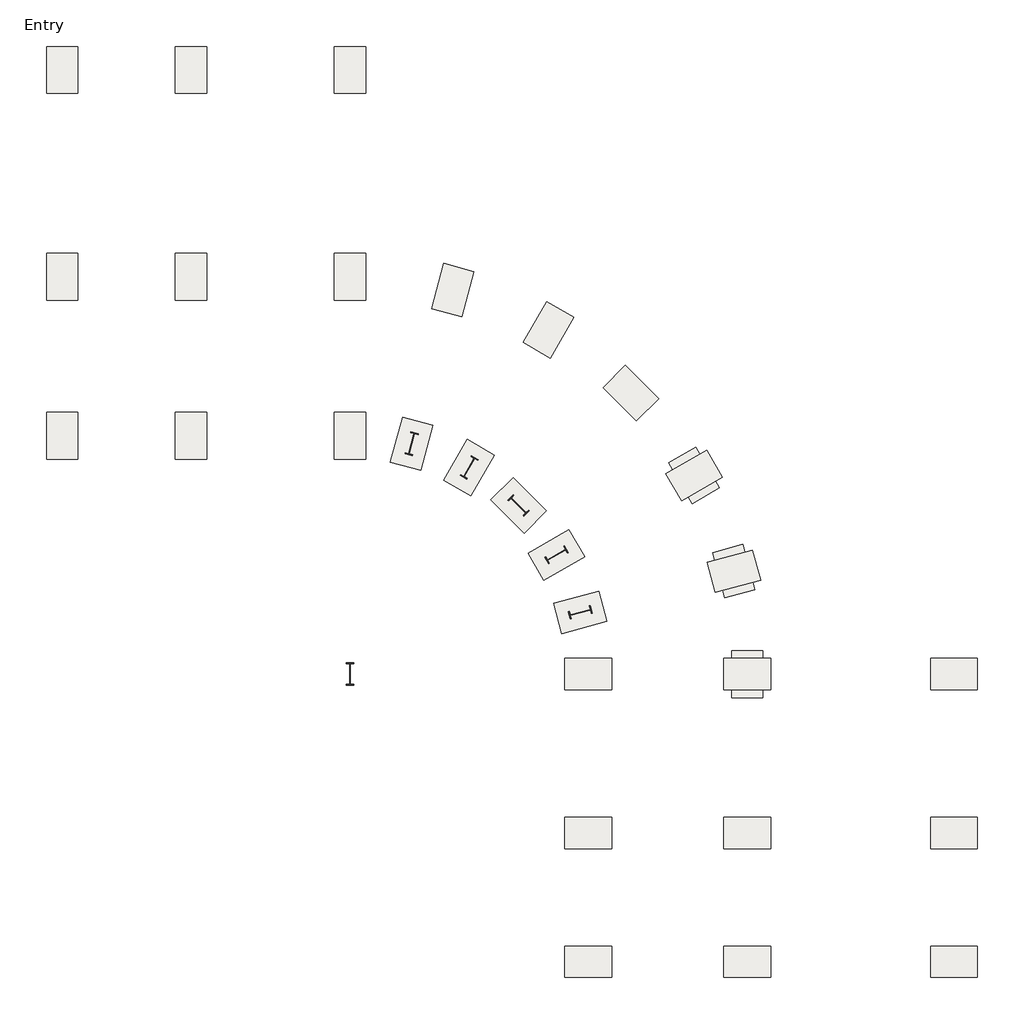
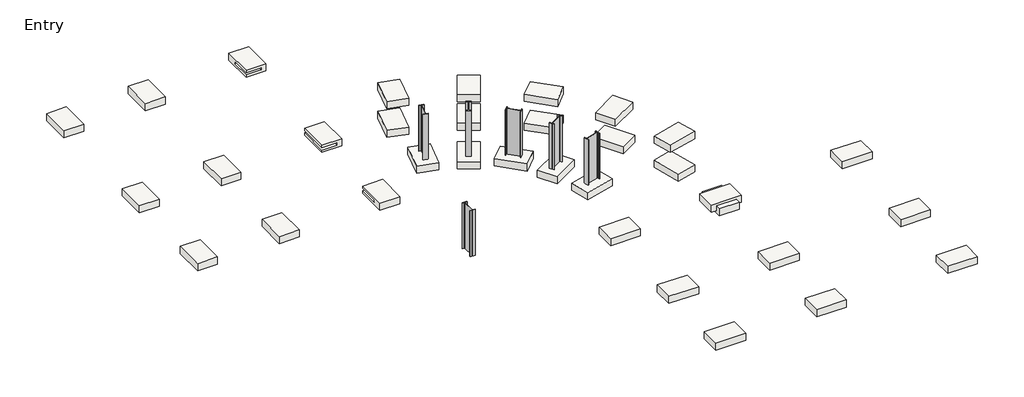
# One storey: 34 slabs, 6 columns.
"""IFC4 building model written with IfcOpenShell, lengths in millimetres."""

import ifcopenshell
import ifcopenshell.guid

model = None  # the IFC model being written
_history = None  # IfcOwnerHistory: only IFC2X3 demands one
_inside = {}  # id of a spatial element -> (the spatial element, [elements in it])
_under = {}  # id of a project, library or spatial element -> (it, [spatial elements below it])
_declared = {}  # id of a project -> (the project, [libraries it declares])
_typed = {}  # id of a type object -> (the type object, [elements of that type])
_made_of = {}  # id of a material, layer set ... -> (it, [elements and type objects made of it])


def new_model(schema):
    """Start an empty IFC model of exactly this schema.

    Asked for "IFC4X3", IfcOpenShell would pick the latest addendum, in which some entities
    have other attributes; the version numbers below select the first issue.
    IFC2X3 requires an IfcOwnerHistory on every rooted entity: one is made here for all.
    """
    global model, _history
    if schema == "IFC4X3":
        model = ifcopenshell.file(schema_version=(4, 3, 0, 0))
    else:
        model = ifcopenshell.file(schema=schema)
    _inside.clear()
    _under.clear()
    _declared.clear()
    _typed.clear()
    _made_of.clear()
    _history = None
    if model.schema == "IFC2X3":
        org = make("IfcOrganization", Name="unknown")
        user = make(
            "IfcPersonAndOrganization",
            ThePerson=make("IfcPerson", FamilyName="unknown"),
            TheOrganization=org,
        )
        app = make(
            "IfcApplication",
            ApplicationDeveloper=org,
            Version="unknown",
            ApplicationFullName="unknown",
            ApplicationIdentifier="unknown",
        )
        _history = make(
            "IfcOwnerHistory",
            OwningUser=user,
            OwningApplication=app,
            ChangeAction="ADDED",
            CreationDate=0,
        )
    return model


def make(cls, **values):
    """One entity of the class cls with the attributes given. An attribute that is None is left unset."""
    return model.create_entity(
        cls, **{name: value for name, value in values.items() if value is not None}
    )


def rooted(cls, **values):
    """An entity with a GlobalId (a new one), such as an element, a storey or a relation."""
    return make(cls, GlobalId=ifcopenshell.guid.new(), OwnerHistory=_history, **values)


def si_unit(unit_type, name, prefix=None):
    """IfcSIUnit, for example si_unit("LENGTHUNIT", "METRE", prefix="MILLI")."""
    return make("IfcSIUnit", UnitType=unit_type, Prefix=prefix, Name=name)


def assignment(units):
    """IfcUnitAssignment: the units of a project."""
    return None if units is None else make("IfcUnitAssignment", Units=units)


def point(xyz):
    """IfcCartesianPoint."""
    return None if xyz is None else make("IfcCartesianPoint", Coordinates=xyz)


def direction(xyz):
    """IfcDirection."""
    return None if xyz is None else make("IfcDirection", DirectionRatios=xyz)


def frame(location, z_axis=None, x_axis=None):
    """IfcAxis2Placement3D, a coordinate frame: its origin and axes. An axis left out is left unset."""
    return make(
        "IfcAxis2Placement3D",
        Location=point(location),
        Axis=direction(z_axis),
        RefDirection=direction(x_axis),
    )


def frame_2d(location, x_axis=None):
    """IfcAxis2Placement2D, a coordinate frame in the plane: its origin and x axis."""
    return make(
        "IfcAxis2Placement2D", Location=point(location), RefDirection=direction(x_axis)
    )


def origin():
    """The frame at (0, 0, 0) with its axes left unset."""
    return frame((0.0, 0.0, 0.0))


def origin_with_axes():
    """The frame at (0, 0, 0) with the z axis (0, 0, 1) and the x axis (1, 0, 0) written out."""
    return frame((0.0, 0.0, 0.0), z_axis=(0.0, 0.0, 1.0), x_axis=(1.0, 0.0, 0.0))


def place(relative_to, where):
    """IfcLocalPlacement: puts the frame where relative to a parent placement (None: the world)."""
    return make(
        "IfcLocalPlacement", PlacementRelTo=relative_to, RelativePlacement=where
    )


def context(
    kind, dimensions, precision=None, world=None, true_north=None, identifier=None
):
    """IfcGeometricRepresentationContext, for example the 3D "Model" context."""
    return make(
        "IfcGeometricRepresentationContext",
        ContextIdentifier=identifier,
        ContextType=kind,
        CoordinateSpaceDimension=dimensions,
        Precision=precision,
        WorldCoordinateSystem=world,
        TrueNorth=true_north,
    )


def project(units=None, contexts=None):
    """IfcProject with its units and contexts."""
    return rooted(
        "IfcProject",
        Name="project",
        RepresentationContexts=contexts,
        UnitsInContext=assignment(units),
    )


def spatial(cls, under=None, at=None, **own):
    """A site, building, storey or space (cls), placed at a placement, below another one or the project."""
    s = rooted(cls, ObjectPlacement=at, **own)
    if under is not None:
        _under.setdefault(under.id(), (under, []))[1].append(s)
    return s


def polyline(points):
    """IfcPolyline through the points."""
    return make("IfcPolyline", Points=[point(p) for p in points])


def circle_curve(where, radius):
    """IfcCircle in the frame where."""
    return make("IfcCircle", Position=where, Radius=radius)


def trimmed(basis, trim1, trim2, sense, master):
    """IfcTrimmedCurve: the piece of a basis curve between two trims."""
    return make(
        "IfcTrimmedCurve",
        BasisCurve=basis,
        Trim1=trim1,
        Trim2=trim2,
        SenseAgreement=sense,
        MasterRepresentation=master,
    )


def segment(curve, same_sense, transition):
    """IfcCompositeCurveSegment."""
    return make(
        "IfcCompositeCurveSegment",
        Transition=transition,
        SameSense=same_sense,
        ParentCurve=curve,
    )


def composite_curve(segments, self_intersect=None):
    """IfcCompositeCurve: segments joined end to end."""
    return make("IfcCompositeCurve", Segments=segments, SelfIntersect=self_intersect)


def outline(outer, holes=None, kind="AREA"):
    """IfcArbitraryClosedProfileDef: a profile drawn as a closed curve; with holes, ...WithVoids."""
    if holes is None:
        return make("IfcArbitraryClosedProfileDef", ProfileType=kind, OuterCurve=outer)
    return make(
        "IfcArbitraryProfileDefWithVoids",
        ProfileType=kind,
        OuterCurve=outer,
        InnerCurves=holes,
    )


def extrude(swept, where, along, depth):
    """IfcExtrudedAreaSolid: the profile swept, set in the frame where, extruded along a direction by depth."""
    return make(
        "IfcExtrudedAreaSolid",
        SweptArea=swept,
        Position=where,
        ExtrudedDirection=direction(along),
        Depth=depth,
    )


def faces_of(points, faces, orient=None, outer=None):
    """IfcFace entities. A face is a list of loops; a loop is a list of indices into points, from 0.

    orient and outer hold one flag for each loop. By default every Orientation is true, the
    first loop of a face is its IfcFaceOuterBound and the others are IfcFaceBound.
    """
    made = []
    for i, loops in enumerate(faces):
        bounds = []
        for j, loop in enumerate(loops):
            is_outer = j == 0 if outer is None else outer[i][j]
            bounds.append(
                make(
                    "IfcFaceOuterBound" if is_outer else "IfcFaceBound",
                    Bound=make("IfcPolyLoop", Polygon=[points[k] for k in loop]),
                    Orientation=True if orient is None else orient[i][j],
                )
            )
        made.append(make("IfcFace", Bounds=bounds))
    return made


def faceted_brep(points, faces, orient=None, outer=None, voids=None):
    """IfcFacetedBrep: a solid bounded by flat faces; with voids (closed shells), ...WithVoids."""
    shared = [point(p) for p in points]
    hull = make("IfcClosedShell", CfsFaces=faces_of(shared, faces, orient, outer))
    if voids is None:
        return make("IfcFacetedBrep", Outer=hull)
    return make(
        "IfcFacetedBrepWithVoids",
        Outer=hull,
        Voids=[
            make(cls, CfsFaces=faces_of(shared, fs, o, b)) for cls, fs, o, b in voids
        ],
    )


def shape(context_of_items, identifier, shape_type, items):
    """IfcShapeRepresentation: the items that make up one representation, for example the "Body"."""
    return make(
        "IfcShapeRepresentation",
        ContextOfItems=context_of_items,
        RepresentationIdentifier=identifier,
        RepresentationType=shape_type,
        Items=items,
    )


def source(mapping_origin, context_of_items, identifier, shape_type, items):
    """IfcRepresentationMap: a shape defined once, which mapped items show again and again."""
    return make(
        "IfcRepresentationMap",
        MappingOrigin=mapping_origin,
        MappedRepresentation=shape(context_of_items, identifier, shape_type, items),
    )


def transform(
    local_origin,
    x_axis=None,
    y_axis=None,
    z_axis=None,
    scale=None,
    scale2=None,
    scale3=None,
    uniform=True,
):
    """IfcCartesianTransformationOperator3D, or its non-uniform kind. x_axis, y_axis, z_axis: its Axis1, 2, 3."""
    if uniform:
        return make(
            "IfcCartesianTransformationOperator3D",
            Axis1=direction(x_axis),
            Axis2=direction(y_axis),
            LocalOrigin=point(local_origin),
            Scale=scale,
            Axis3=direction(z_axis),
        )
    return make(
        "IfcCartesianTransformationOperator3DnonUniform",
        Axis1=direction(x_axis),
        Axis2=direction(y_axis),
        LocalOrigin=point(local_origin),
        Scale=scale,
        Axis3=direction(z_axis),
        Scale2=scale2,
        Scale3=scale3,
    )


def mapped(mapping_source, mapping_target):
    """IfcMappedItem: shows the shape of a source again, moved by a transform."""
    return make(
        "IfcMappedItem", MappingSource=mapping_source, MappingTarget=mapping_target
    )


def made_of(thing, what):
    """Note that an element or type object is made of a material, layer set ...; save() writes the relation."""
    if what is not None:
        _made_of.setdefault(what.id(), (what, []))[1].append(thing)
    return thing


def element(
    cls,
    number,
    at=None,
    inside=None,
    cuts=None,
    type_object=None,
    material=None,
    context=None,
    identifier="Body",
    shape_type=None,
    held_by="IfcProductDefinitionShape",
    body=None,
    shapes=None,
    **own,
):
    """One element of the class cls, such as IfcWall. Its Tag is "e" and its number.

    at: its placement. inside: the storey or other place that contains it. cuts: it is an
    opening in that element (IfcRelVoidsElement). A single representation is given by context,
    identifier, shape_type and body (its items); several are given by shapes. held_by: the class
    of the entity that holds the representations. save() writes the other relations.
    """
    e = rooted(cls, Tag="e%d" % number, ObjectPlacement=at, **own)
    if body is not None:
        shapes = [shape(context, identifier, shape_type, body)]
    if shapes is not None:
        e.Representation = make(held_by, Representations=shapes)
    if inside is not None:
        _inside.setdefault(inside.id(), (inside, []))[1].append(e)
    if cuts is not None:
        rooted(
            "IfcRelVoidsElement", RelatingBuildingElement=cuts, RelatedOpeningElement=e
        )
    if type_object is not None:
        _typed.setdefault(type_object.id(), (type_object, []))[1].append(e)
    return made_of(e, material)


def aggregate(whole, parts):
    """IfcRelAggregates: a whole, such as a stair, and the parts it consists of."""
    return rooted("IfcRelAggregates", RelatingObject=whole, RelatedObjects=parts)


def save(model, path):
    """Write the relations noted so far, then the file.

    IfcRelAggregates (storeys below a building ...), IfcRelContainedInSpatialStructure (elements
    in a storey), IfcRelDefinesByType, IfcRelAssociatesMaterial and IfcRelDeclares: one each for
    every whole, place, type object, material and project.
    """
    for whole, parts in _under.values():
        aggregate(whole, parts)
    for where, things in _inside.values():
        rooted(
            "IfcRelContainedInSpatialStructure",
            RelatedElements=things,
            RelatingStructure=where,
        )
    for kind, things in _typed.values():
        rooted("IfcRelDefinesByType", RelatedObjects=things, RelatingType=kind)
    for what, things in _made_of.values():
        rooted("IfcRelAssociatesMaterial", RelatedObjects=things, RelatingMaterial=what)
    for by, libraries in _declared.values():
        rooted("IfcRelDeclares", RelatingContext=by, RelatedDefinitions=libraries)
    model.write(path)


def w840x251_ab389207(model_context):
    return source(origin(), model_context, "Body", "SweptSolid", [
        extrude(outline(composite_curve([segment(polyline([(146.0, 429.5), (146.0, 398.5), (31.5, 398.5)]), True, "CONTINUOUS"), segment(trimmed(circle_curve(frame_2d((31.5, 375.5)), 23.0), [point((31.5, 398.5))], [point((8.5, 375.5))], True, "CARTESIAN"), True, "CONTINUOUS"), segment(polyline([(8.5, 375.5), (8.5, -375.5)]), True, "CONTINUOUS"), segment(trimmed(circle_curve(frame_2d((31.5, -375.5)), 23.0), [point((8.5, -375.5))], [point((31.5, -398.5))], True, "CARTESIAN"), True, "CONTINUOUS"), segment(polyline([(31.5, -398.5), (146.0, -398.5), (146.0, -429.5), (-146.0, -429.5), (-146.0, -398.5), (-31.5, -398.5)]), True, "CONTINUOUS"), segment(trimmed(circle_curve(frame_2d((-31.5, -375.5)), 23.0), [point((-31.5, -398.5))], [point((-8.5, -375.5))], True, "CARTESIAN"), True, "CONTINUOUS"), segment(polyline([(-8.5, -375.5), (-8.5, 375.5)]), True, "CONTINUOUS"), segment(trimmed(circle_curve(frame_2d((-31.5, 375.5)), 23.0), [point((-8.5, 375.5))], [point((-31.5, 398.5))], True, "CARTESIAN"), True, "CONTINUOUS"), segment(polyline([(-31.5, 398.5), (-146.0, 398.5), (-146.0, 429.5), (146.0, 429.5)]), True, "CONTINUOUS")], self_intersect=False)), origin_with_axes(), (0.0, 0.0, 1.0), 2921.0),
    ])


def m_footing_rectangular_1800_x_1200_x_450mm_16ba7ea5(model_context):
    return source(origin(), model_context, "Body", "SweptSolid", [
        extrude(outline(polyline([(600.0, 900.0), (600.0, -900.0), (-600.0, -900.0), (-600.0, 900.0), (600.0, 900.0)])), frame((0.0, 0.0, -450.0), z_axis=(0.0, 0.0, 1.0), x_axis=(1.0, 0.0, 0.0)), (0.0, 0.0, 1.0), 450.0),
    ])


def m_footing_rectangular_1800_x_1200_x_450mm_a17f5610(model_context):
    return source(origin(), model_context, "Body", "SweptSolid", [
        extrude(outline(polyline([(600.0, -900.0), (-600.0, -900.0), (-600.0, 900.0), (600.0, 900.0), (600.0, -900.0)])), frame((0.0, 0.0, -450.0), z_axis=(0.0, 0.0, 1.0), x_axis=(1.0, 0.0, 0.0)), (0.0, 0.0, 1.0), 450.0),
    ])


model = new_model("IFC4")

# Units and contexts
model_context = context("Model", 3, world=origin())
ifc_project = project(units=[si_unit("LENGTHUNIT", "METRE", prefix="MILLI")], contexts=[model_context])

# Site, building, storey
site = spatial("IfcSite", under=ifc_project)
building = spatial("IfcBuilding", under=site)
storey = spatial("IfcBuildingStorey", under=building, Name="Entry", Elevation=0.0)

# Columns
placement = place(None, origin())
w840x251_shape = w840x251_ab389207(model_context)
element("IfcColumn", 1, ObjectType="M_W-Wide Flange-Column : W840X251", at=placement, inside=storey, context=model_context, shape_type="MappedRepresentation", body=[
    mapped(w840x251_shape, transform((-10508.9035319, -18902.8363965, 0.0), x_axis=(1.0, 0.0, 0.0), y_axis=(0.0, 1.0, 0.0), z_axis=(0.0, 0.0, 1.0))),
])
element("IfcColumn", 2, ObjectType="M_W-Wide Flange-Column : W840X251", at=placement, inside=storey, context=model_context, shape_type="MappedRepresentation", body=[
    mapped(w840x251_shape, transform((-1676.4777763, -16536.1950481, 0.0), x_axis=(-0.25881904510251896, 0.9659258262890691, 0.0), y_axis=(-0.9659258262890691, -0.25881904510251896, 0.0), z_axis=(0.0, 0.0, 1.0))),
])
element("IfcColumn", 3, ObjectType="M_W-Wide Flange-Column : W840X251", at=placement, inside=storey, context=model_context, shape_type="MappedRepresentation", body=[
    mapped(w840x251_shape, transform((-2589.9672396, -14330.8363965, 0.0), x_axis=(-0.4999999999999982, 0.8660254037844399, 0.0), y_axis=(-0.8660254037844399, -0.4999999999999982, 0.0), z_axis=(0.0, 0.0, 1.0))),
])
element("IfcColumn", 4, ObjectType="M_W-Wide Flange-Column : W840X251", at=placement, inside=storey, context=model_context, shape_type="MappedRepresentation", body=[
    mapped(w840x251_shape, transform((-4043.1191247, -12437.0519893, 0.0), x_axis=(0.7071067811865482, 0.7071067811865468, 0.0), y_axis=(-0.7071067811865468, 0.7071067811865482, 0.0), z_axis=(0.0, 0.0, 1.0))),
])
element("IfcColumn", 5, ObjectType="M_W-Wide Flange-Column : W840X251", at=placement, inside=storey, context=model_context, shape_type="MappedRepresentation", body=[
    mapped(w840x251_shape, transform((-5936.9035319, -10983.9001043, 0.0), x_axis=(0.8660254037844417, -0.49999999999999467, 0.0), y_axis=(0.49999999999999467, 0.8660254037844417, 0.0), z_axis=(0.0, 0.0, 1.0))),
])
element("IfcColumn", 6, ObjectType="M_W-Wide Flange-Column : W840X251", at=placement, inside=storey, context=model_context, shape_type="MappedRepresentation", body=[
    mapped(w840x251_shape, transform((-8142.2621834, -10070.4106409, 0.0), x_axis=(0.9659258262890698, -0.25881904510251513, 0.0), y_axis=(0.25881904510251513, 0.9659258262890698, 0.0), z_axis=(0.0, 0.0, 1.0))),
])

# Slabs
element("IfcSlab", 7, ObjectType="M_Footing-Rectangular : 1800 x 1200 x 450mm", at=placement, inside=storey, context=model_context, shape_type="Brep", body=[
    faceted_brep([(-11108.9035319, 3362.1636035, -1677.0), (-9908.9035319, 3362.1636035, -1677.0), (-9908.9035319, 5162.1636035, -1677.0), (-11108.9035319, 5162.1636035, -1677.0), (-11108.9035319, 3362.1636035, -2127.0), (-11108.9035319, 5162.1636035, -2127.0), (-9908.9035319, 5162.1636035, -2127.0), (-9908.9035319, 3362.1636035, -2127.0), (-11108.9035319, 3362.1636035, -1829.0), (-10208.9035319, 3362.1636035, -1829.0), (-10208.9035319, 3362.1636035, -1979.0), (-11108.9035319, 3362.1636035, -1979.0), (-11108.9035319, 4562.1636035, -1979.0), (-11108.9035319, 4562.1636035, -1829.0), (-10208.9035319, 4562.1636035, -1979.0), (-10208.9035319, 4562.1636035, -1829.0)], [[[0, 1, 2, 3]], [[4, 5, 6, 7]], [[1, 0, 8, 9, 10, 11, 4, 7]], [[2, 1, 7, 6]], [[3, 2, 6, 5]], [[0, 3, 5, 4, 11, 12, 13, 8]], [[14, 12, 11, 10]], [[15, 9, 8, 13]], [[15, 14, 10, 9]], [[14, 15, 13, 12]]]),
])
element("IfcSlab", 8, ObjectType="M_Footing-Rectangular : 1800 x 1200 x 450mm", at=placement, inside=storey, context=model_context, shape_type="Brep", body=[
    faceted_brep([(5331.0964681, -18002.8363965, -1829.0), (4131.0964681, -18002.8363965, -1829.0), (4131.0964681, -18302.8363965, -1829.0), (4131.0964681, -19502.8363965, -1829.0), (4131.0964681, -19802.8363965, -1829.0), (5331.0964681, -19802.8363965, -1829.0), (5331.0964681, -19502.8363965, -1829.0), (5331.0964681, -18302.8363965, -1829.0), (5331.0964681, -18002.8363965, -2279.0), (5331.0964681, -19802.8363965, -2279.0), (4131.0964681, -19802.8363965, -2279.0), (4131.0964681, -18002.8363965, -2279.0)], [[[0, 1, 2, 3, 4, 5, 6, 7]], [[8, 9, 10, 11]], [[1, 0, 8, 11]], [[4, 3, 2, 1, 11, 10]], [[5, 4, 10, 9]], [[0, 7, 6, 5, 9, 8]]]),
])
element("IfcSlab", 9, ObjectType="M_Footing-Rectangular : 1800 x 1200 x 450mm", at=placement, inside=storey, context=model_context, shape_type="SweptSolid", body=[
    extrude(outline(polyline([(-1677.0, -9908.9035319), (-1677.0, -11108.9035319), (-1829.0, -11108.9035319), (-1829.0, -10208.9035319), (-1979.0, -10208.9035319), (-1979.0, -11108.9035319), (-2127.0, -11108.9035319), (-2127.0, -9908.9035319), (-1677.0, -9908.9035319)])), frame((0.0, -4562.8363965, 0.0), z_axis=(0.0, 1.0, 0.0), x_axis=(0.0, 0.0, 1.0)), (0.0, 0.0, 1.0), 1800.0),
])
element("IfcSlab", 10, ObjectType="M_Footing-Rectangular : 1800 x 1200 x 450mm", at=placement, inside=storey, context=model_context, shape_type="Brep", body=[
    faceted_brep([(-9908.9035319, -8858.8363965, -1677.0), (-11108.9035319, -8858.8363965, -1677.0), (-11108.9035319, -10658.8363965, -1677.0), (-9908.9035319, -10658.8363965, -1677.0), (-9908.9035319, -8858.8363965, -2127.0), (-9908.9035319, -10658.8363965, -2127.0), (-11108.9035319, -10658.8363965, -2127.0), (-11108.9035319, -8858.8363965, -2127.0), (-11108.9035319, -8858.8363965, -1979.0), (-10208.9035319, -8858.8363965, -1979.0), (-10208.9035319, -8858.8363965, -1829.0), (-11108.9035319, -8858.8363965, -1829.0), (-11108.9035319, -10058.8363965, -1829.0), (-11108.9035319, -10058.8363965, -1979.0), (-10208.9035319, -10058.8363965, -1979.0), (-10208.9035319, -10058.8363965, -1829.0)], [[[0, 1, 2, 3]], [[4, 5, 6, 7]], [[1, 0, 4, 7, 8, 9, 10, 11]], [[2, 1, 11, 12, 13, 8, 7, 6]], [[3, 2, 6, 5]], [[0, 3, 5, 4]], [[13, 14, 9, 8]], [[10, 15, 12, 11]], [[14, 15, 10, 9]], [[15, 14, 13, 12]]]),
])
element("IfcSlab", 11, ObjectType="M_Footing-Rectangular : 1800 x 1200 x 450mm", at=placement, inside=storey, context=model_context, shape_type="SweptSolid", body=[
    extrude(outline(polyline([(11756.0964681, -19502.8363965), (11756.0964681, -18302.8363965), (13556.0964681, -18302.8363965), (13556.0964681, -19502.8363965), (11756.0964681, -19502.8363965)])), frame((0.0, 0.0, -2127.0), z_axis=(0.0, 0.0, 1.0), x_axis=(1.0, 0.0, 0.0)), (0.0, 0.0, 1.0), 450.0),
])
element("IfcSlab", 12, ObjectType="M_Footing-Rectangular : 1800 x 1200 x 450mm", at=placement, inside=storey, context=model_context, shape_type="SweptSolid", body=[
    extrude(outline(polyline([(-1677.0, 5631.0964681), (-1677.0, 3831.0964681), (-2127.0, 3831.0964681), (-2127.0, 4131.0964681), (-1829.0, 4131.0964681), (-1829.0, 5331.0964681), (-2127.0, 5331.0964681), (-2127.0, 5631.0964681), (-1677.0, 5631.0964681)])), frame((0.0, -19502.8363965, 0.0), z_axis=(0.0, 1.0, 0.0), x_axis=(0.0, 0.0, 1.0)), (0.0, 0.0, 1.0), 1200.0),
])
element("IfcSlab", 13, ObjectType="M_Footing-Rectangular : 1800 x 1200 x 450mm", at=placement, inside=storey, context=model_context, shape_type="SweptSolid", body=[
    extrude(outline(polyline([(-464.9035319, -18302.8363965), (-464.9035319, -19502.8363965), (-2264.9035319, -19502.8363965), (-2264.9035319, -18302.8363965), (-464.9035319, -18302.8363965)])), frame((0.0, 0.0, -2127.0), z_axis=(0.0, 0.0, 1.0), x_axis=(1.0, 0.0, 0.0)), (0.0, 0.0, 1.0), 450.0),
])
m_footing_rectangular_1800_x_1200_x_450mm_shape = m_footing_rectangular_1800_x_1200_x_450mm_16ba7ea5(model_context)
element("IfcSlab", 14, ObjectType="M_Footing-Rectangular : 1800 x 1200 x 450mm", at=placement, inside=storey, context=model_context, shape_type="MappedRepresentation", body=[
    mapped(m_footing_rectangular_1800_x_1200_x_450mm_shape, transform((4211.8060608, -14958.4341491, -1829.0), x_axis=(0.9659258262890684, 0.25881904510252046, 0.0), y_axis=(-0.25881904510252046, 0.9659258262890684, 0.0), z_axis=(0.0, 0.0, 1.0))),
])
element("IfcSlab", 15, ObjectType="M_Footing-Rectangular : 1800 x 1200 x 450mm", at=placement, inside=storey, context=model_context, shape_type="MappedRepresentation", body=[
    mapped(m_footing_rectangular_1800_x_1200_x_450mm_shape, transform((2689.3236218, -11282.8363965, -1829.0), x_axis=(0.8660254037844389, 0.4999999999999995, 0.0), y_axis=(-0.4999999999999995, 0.8660254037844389, 0.0), z_axis=(0.0, 0.0, 1.0))),
])
element("IfcSlab", 16, ObjectType="M_Footing-Rectangular : 1800 x 1200 x 450mm", at=placement, inside=storey, context=model_context, shape_type="MappedRepresentation", body=[
    mapped(m_footing_rectangular_1800_x_1200_x_450mm_shape, transform((267.4038134, -8126.5290512, -1829.0), x_axis=(0.7071067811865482, 0.7071067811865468, 0.0), y_axis=(-0.7071067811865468, 0.7071067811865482, 0.0), z_axis=(0.0, 0.0, 1.0))),
])
element("IfcSlab", 17, ObjectType="M_Footing-Rectangular : 1800 x 1200 x 450mm", at=placement, inside=storey, context=model_context, shape_type="MappedRepresentation", body=[
    mapped(m_footing_rectangular_1800_x_1200_x_450mm_shape, transform((-2888.9035319, -5704.6092428, -1829.0), x_axis=(0.8660254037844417, -0.49999999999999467, 0.0), y_axis=(0.49999999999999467, 0.8660254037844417, 0.0), z_axis=(0.0, 0.0, 1.0))),
])
element("IfcSlab", 18, ObjectType="M_Footing-Rectangular : 1800 x 1200 x 450mm", at=placement, inside=storey, context=model_context, shape_type="MappedRepresentation", body=[
    mapped(m_footing_rectangular_1800_x_1200_x_450mm_shape, transform((-6564.5012845, -4182.1268039, -1829.0), x_axis=(0.9659258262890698, -0.25881904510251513, 0.0), y_axis=(0.25881904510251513, 0.9659258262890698, 0.0), z_axis=(0.0, 0.0, 1.0))),
])
element("IfcSlab", 19, ObjectType="M_Footing-Rectangular : 1800 x 1200 x 450mm", at=placement, inside=storey, context=model_context, shape_type="MappedRepresentation", body=[
    mapped(m_footing_rectangular_1800_x_1200_x_450mm_shape, transform((-1676.4777763, -16536.1950481, 0.0), x_axis=(-0.25881904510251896, 0.9659258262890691, 0.0), y_axis=(-0.9659258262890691, -0.25881904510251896, 0.0), z_axis=(0.0, 0.0, 1.0))),
])
element("IfcSlab", 20, ObjectType="M_Footing-Rectangular : 1800 x 1200 x 450mm", at=placement, inside=storey, context=model_context, shape_type="MappedRepresentation", body=[
    mapped(m_footing_rectangular_1800_x_1200_x_450mm_shape, transform((-2589.9672396, -14330.8363965, 0.0), x_axis=(-0.4999999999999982, 0.8660254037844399, 0.0), y_axis=(-0.8660254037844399, -0.4999999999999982, 0.0), z_axis=(0.0, 0.0, 1.0))),
])
element("IfcSlab", 21, ObjectType="M_Footing-Rectangular : 1800 x 1200 x 450mm", at=placement, inside=storey, context=model_context, shape_type="MappedRepresentation", body=[
    mapped(m_footing_rectangular_1800_x_1200_x_450mm_shape, transform((-4043.1191247, -12437.0519893, 0.0), x_axis=(0.7071067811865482, 0.7071067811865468, 0.0), y_axis=(-0.7071067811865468, 0.7071067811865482, 0.0), z_axis=(0.0, 0.0, 1.0))),
])
element("IfcSlab", 22, ObjectType="M_Footing-Rectangular : 1800 x 1200 x 450mm", at=placement, inside=storey, context=model_context, shape_type="MappedRepresentation", body=[
    mapped(m_footing_rectangular_1800_x_1200_x_450mm_shape, transform((-5936.9035319, -10983.9001043, 0.0), x_axis=(0.8660254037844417, -0.49999999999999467, 0.0), y_axis=(0.49999999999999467, 0.8660254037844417, 0.0), z_axis=(0.0, 0.0, 1.0))),
])
element("IfcSlab", 23, ObjectType="M_Footing-Rectangular : 1800 x 1200 x 450mm", at=placement, inside=storey, context=model_context, shape_type="MappedRepresentation", body=[
    mapped(m_footing_rectangular_1800_x_1200_x_450mm_shape, transform((-8142.2621834, -10070.4106409, 0.0), x_axis=(0.9659258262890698, -0.25881904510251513, 0.0), y_axis=(0.25881904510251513, 0.9659258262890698, 0.0), z_axis=(0.0, 0.0, 1.0))),
])
element("IfcSlab", 24, ObjectType="M_Footing-Rectangular : 1800 x 1200 x 450mm", at=placement, inside=storey, context=model_context, shape_type="MappedRepresentation", body=[
    mapped(m_footing_rectangular_1800_x_1200_x_450mm_shape, transform((4211.8060608, -14958.4341491, 0.0), x_axis=(-0.25881904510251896, 0.9659258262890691, 0.0), y_axis=(-0.9659258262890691, -0.25881904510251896, 0.0), z_axis=(0.0, 0.0, 1.0))),
])
element("IfcSlab", 25, ObjectType="M_Footing-Rectangular : 1800 x 1200 x 450mm", at=placement, inside=storey, context=model_context, shape_type="MappedRepresentation", body=[
    mapped(m_footing_rectangular_1800_x_1200_x_450mm_shape, transform((2689.3236218, -11282.8363965, 0.0), x_axis=(-0.4999999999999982, 0.8660254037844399, 0.0), y_axis=(-0.8660254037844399, -0.4999999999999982, 0.0), z_axis=(0.0, 0.0, 1.0))),
])
element("IfcSlab", 26, ObjectType="M_Footing-Rectangular : 1800 x 1200 x 450mm", at=placement, inside=storey, context=model_context, shape_type="MappedRepresentation", body=[
    mapped(m_footing_rectangular_1800_x_1200_x_450mm_shape, transform((267.4038134, -8126.5290512, 0.0), x_axis=(0.7071067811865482, 0.7071067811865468, 0.0), y_axis=(-0.7071067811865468, 0.7071067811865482, 0.0), z_axis=(0.0, 0.0, 1.0))),
])
element("IfcSlab", 27, ObjectType="M_Footing-Rectangular : 1800 x 1200 x 450mm", at=placement, inside=storey, context=model_context, shape_type="MappedRepresentation", body=[
    mapped(m_footing_rectangular_1800_x_1200_x_450mm_shape, transform((-2888.9035319, -5704.6092428, 0.0), x_axis=(0.8660254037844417, -0.49999999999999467, 0.0), y_axis=(0.49999999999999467, 0.8660254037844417, 0.0), z_axis=(0.0, 0.0, 1.0))),
])
element("IfcSlab", 28, ObjectType="M_Footing-Rectangular : 1800 x 1200 x 450mm", at=placement, inside=storey, context=model_context, shape_type="MappedRepresentation", body=[
    mapped(m_footing_rectangular_1800_x_1200_x_450mm_shape, transform((-6564.5012845, -4182.1268039, 0.0), x_axis=(0.9659258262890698, -0.25881904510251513, 0.0), y_axis=(0.25881904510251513, 0.9659258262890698, 0.0), z_axis=(0.0, 0.0, 1.0))),
])
element("IfcSlab", 29, ObjectType="M_Footing-Rectangular : 1800 x 1200 x 450mm", at=placement, inside=storey, context=model_context, shape_type="MappedRepresentation", body=[
    mapped(m_footing_rectangular_1800_x_1200_x_450mm_shape, transform((-16604.9035319, 4262.1636035, -1677.0), x_axis=(-1.0, 0.0, 0.0), y_axis=(0.0, -1.0, 0.0), z_axis=(0.0, 0.0, 1.0))),
])
element("IfcSlab", 30, ObjectType="M_Footing-Rectangular : 1800 x 1200 x 450mm", at=placement, inside=storey, context=model_context, shape_type="MappedRepresentation", body=[
    mapped(m_footing_rectangular_1800_x_1200_x_450mm_shape, transform((-21544.300634, 4262.1636035, -1677.0), x_axis=(-1.0, 0.0, 0.0), y_axis=(0.0, -1.0, 0.0), z_axis=(0.0, 0.0, 1.0))),
])
element("IfcSlab", 31, ObjectType="M_Footing-Rectangular : 1800 x 1200 x 450mm", at=placement, inside=storey, context=model_context, shape_type="MappedRepresentation", body=[
    mapped(m_footing_rectangular_1800_x_1200_x_450mm_shape, transform((-16604.9035319, -3662.8363965, -1677.0), x_axis=(-1.0, 0.0, 0.0), y_axis=(0.0, -1.0, 0.0), z_axis=(0.0, 0.0, 1.0))),
])
element("IfcSlab", 32, ObjectType="M_Footing-Rectangular : 1800 x 1200 x 450mm", at=placement, inside=storey, context=model_context, shape_type="MappedRepresentation", body=[
    mapped(m_footing_rectangular_1800_x_1200_x_450mm_shape, transform((-21544.300634, -3662.8363965, -1677.0), x_axis=(-1.0, 0.0, 0.0), y_axis=(0.0, -1.0, 0.0), z_axis=(0.0, 0.0, 1.0))),
])
element("IfcSlab", 33, ObjectType="M_Footing-Rectangular : 1800 x 1200 x 450mm", at=placement, inside=storey, context=model_context, shape_type="MappedRepresentation", body=[
    mapped(m_footing_rectangular_1800_x_1200_x_450mm_shape, transform((-16604.9035319, -9758.8363965, -1677.0), x_axis=(-1.0, 0.0, 0.0), y_axis=(0.0, -1.0, 0.0), z_axis=(0.0, 0.0, 1.0))),
])
element("IfcSlab", 34, ObjectType="M_Footing-Rectangular : 1800 x 1200 x 450mm", at=placement, inside=storey, context=model_context, shape_type="MappedRepresentation", body=[
    mapped(m_footing_rectangular_1800_x_1200_x_450mm_shape, transform((-21544.300634, -9758.8363965, -1677.0), x_axis=(-1.0, 0.0, 0.0), y_axis=(0.0, -1.0, 0.0), z_axis=(0.0, 0.0, 1.0))),
])
m_footing_rectangular_1800_x_1200_x_450mm_2_shape = m_footing_rectangular_1800_x_1200_x_450mm_a17f5610(model_context)
element("IfcSlab", 35, ObjectType="M_Footing-Rectangular : 1800 x 1200 x 450mm", at=placement, inside=storey, context=model_context, shape_type="MappedRepresentation", body=[
    mapped(m_footing_rectangular_1800_x_1200_x_450mm_2_shape, transform((12656.0964681, -24998.8363965, -1677.0), x_axis=(0.0, -1.0, 0.0), y_axis=(1.0, 0.0, 0.0), z_axis=(0.0, 0.0, 1.0))),
])
element("IfcSlab", 36, ObjectType="M_Footing-Rectangular : 1800 x 1200 x 450mm", at=placement, inside=storey, context=model_context, shape_type="MappedRepresentation", body=[
    mapped(m_footing_rectangular_1800_x_1200_x_450mm_2_shape, transform((12656.0964681, -29938.2334986, -1677.0), x_axis=(0.0, -1.0, 0.0), y_axis=(1.0, 0.0, 0.0), z_axis=(0.0, 0.0, 1.0))),
])
element("IfcSlab", 37, ObjectType="M_Footing-Rectangular : 1800 x 1200 x 450mm", at=placement, inside=storey, context=model_context, shape_type="MappedRepresentation", body=[
    mapped(m_footing_rectangular_1800_x_1200_x_450mm_2_shape, transform((4731.0964681, -24998.8363965, -1677.0), x_axis=(0.0, -1.0, 0.0), y_axis=(1.0, 0.0, 0.0), z_axis=(0.0, 0.0, 1.0))),
])
element("IfcSlab", 38, ObjectType="M_Footing-Rectangular : 1800 x 1200 x 450mm", at=placement, inside=storey, context=model_context, shape_type="MappedRepresentation", body=[
    mapped(m_footing_rectangular_1800_x_1200_x_450mm_2_shape, transform((4731.0964681, -29938.2334986, -1677.0), x_axis=(0.0, -1.0, 0.0), y_axis=(1.0, 0.0, 0.0), z_axis=(0.0, 0.0, 1.0))),
])
element("IfcSlab", 39, ObjectType="M_Footing-Rectangular : 1800 x 1200 x 450mm", at=placement, inside=storey, context=model_context, shape_type="MappedRepresentation", body=[
    mapped(m_footing_rectangular_1800_x_1200_x_450mm_2_shape, transform((-1364.9035319, -24998.8363965, -1677.0), x_axis=(0.0, -1.0, 0.0), y_axis=(1.0, 0.0, 0.0), z_axis=(0.0, 0.0, 1.0))),
])
element("IfcSlab", 40, ObjectType="M_Footing-Rectangular : 1800 x 1200 x 450mm", at=placement, inside=storey, context=model_context, shape_type="MappedRepresentation", body=[
    mapped(m_footing_rectangular_1800_x_1200_x_450mm_2_shape, transform((-1364.9035319, -29938.2334986, -1677.0), x_axis=(0.0, -1.0, 0.0), y_axis=(1.0, 0.0, 0.0), z_axis=(0.0, 0.0, 1.0))),
])

save(model, "model.ifc")
